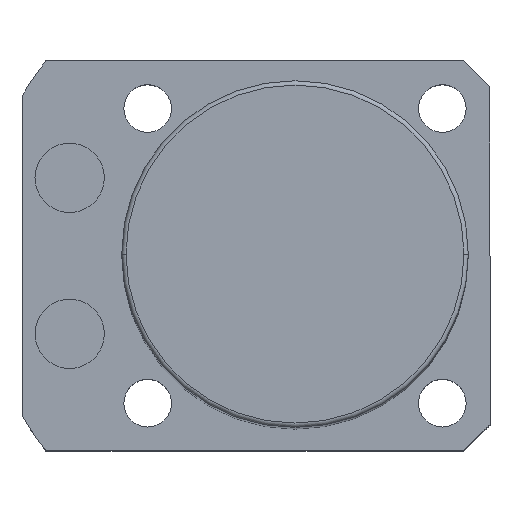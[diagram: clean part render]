
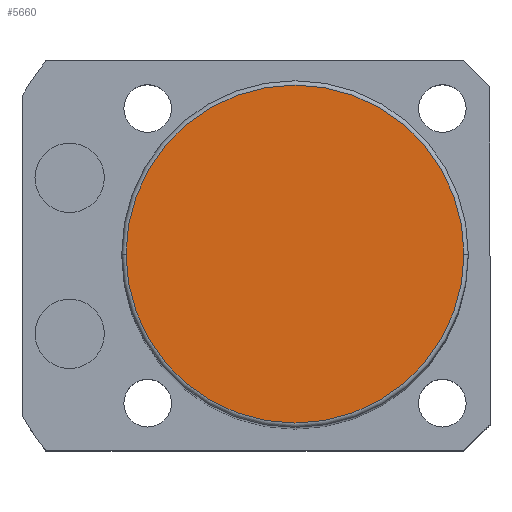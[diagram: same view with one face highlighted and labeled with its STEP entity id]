
A CAD part, top view. The second image highlights one B-rep face of the part: STEP entity #5660.
In plain terms, the highlighted planar face has unit normal (0, 0, 1).
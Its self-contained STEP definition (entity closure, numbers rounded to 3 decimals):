
#430 = CARTESIAN_POINT ( 'NONE',  ( 0., 0., 128.5 ) ) ;
#471 = CARTESIAN_POINT ( 'NONE',  ( 0., 0., 128.5 ) ) ;
#507 = DIRECTION ( 'NONE',  ( 1., 0., 0. ) ) ;
#888 = EDGE_CURVE ( 'NONE', #2427, #5713, #2805, .T. ) ;
#1326 = ORIENTED_EDGE ( 'NONE', *, *, #888, .T. ) ;
#1552 = DIRECTION ( 'NONE',  ( 1., 0., 0. ) ) ;
#2021 = DIRECTION ( 'NONE',  ( 0., 0., 1. ) ) ;
#2056 = AXIS2_PLACEMENT_3D ( 'NONE', #430, #2330, #5555 ) ;
#2330 = DIRECTION ( 'NONE',  ( 0., 0., 1. ) ) ;
#2404 = AXIS2_PLACEMENT_3D ( 'NONE', #471, #3226, #507 ) ;
#2427 = VERTEX_POINT ( 'NONE', #3468 ) ;
#2459 = CARTESIAN_POINT ( 'NONE',  ( 0., 0., 128.5 ) ) ;
#2778 = EDGE_CURVE ( 'NONE', #5713, #2427, #4829, .T. ) ;
#2805 = CIRCLE ( 'NONE', #2056, 19.5 ) ;
#3226 = DIRECTION ( 'NONE',  ( 0., 0., 1. ) ) ;
#3468 = CARTESIAN_POINT ( 'NONE',  ( -19.5, 0., 128.5 ) ) ;
#4092 = CARTESIAN_POINT ( 'NONE',  ( 19.5, 0., 128.5 ) ) ;
#4288 = ORIENTED_EDGE ( 'NONE', *, *, #2778, .T. ) ;
#4829 = CIRCLE ( 'NONE', #2404, 19.5 ) ;
#4907 = FACE_OUTER_BOUND ( 'NONE', #5923, .T. ) ;
#5116 = AXIS2_PLACEMENT_3D ( 'NONE', #2459, #2021, #1552 ) ;
#5555 = DIRECTION ( 'NONE',  ( 1., 0., 0. ) ) ;
#5660 = ADVANCED_FACE ( 'NONE', ( #4907 ), #5723, .T. ) ;
#5713 = VERTEX_POINT ( 'NONE', #4092 ) ;
#5723 = PLANE ( 'NONE',  #5116 ) ;
#5923 = EDGE_LOOP ( 'NONE', ( #4288, #1326 ) ) ;
